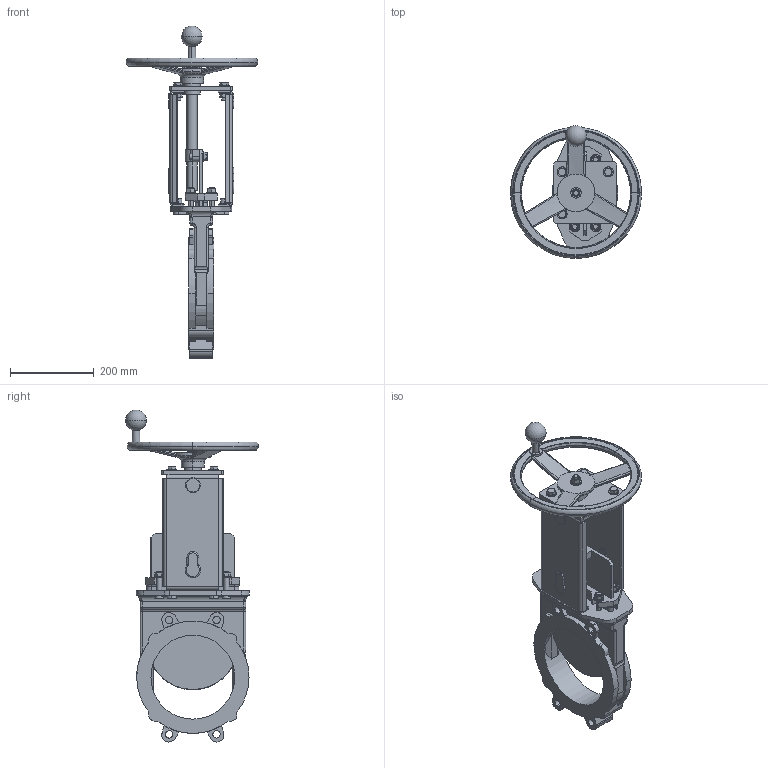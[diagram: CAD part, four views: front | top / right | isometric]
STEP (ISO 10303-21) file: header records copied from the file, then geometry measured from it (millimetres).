
FILE_DESCRIPTION(('STEP AP203'),'1');
FILE_NAME('G:/KONSTRUK/3-d block för CD/WB VALVE/HAND WHEEL/200/WB11 DN200 HW.stp','2012-11-30T13:05:14',(' '),(' '),'Spatial InterOp 3D',' ',' ');
FILE_SCHEMA(('CONFIG_CONTROL_DESIGN'));
Length unit declared in the file: millimetre
Products named in the file (15): 1; 2; 3; 4; 5; 6; 7; 8; 9; 10; 11; 12; 13; 14; 15
Bounding box: 313 x 317.11 x 791.64 mm (x, y, z)
Volume: 4965457.8 mm3; surface area: 848478 mm2
Topology: 15 solids, 15 shells, 1192 faces, 2928 edges, 1842 vertices
Faces by surface type: plane 498, cylinder 351, cone 250, torus 63, bspline 24, sphere 6
Entity records: 45714 total; most frequent: CARTESIAN_POINT 16969, DIRECTION 5937, ORIENTED_EDGE 5840, EDGE_CURVE 2920, AXIS2_PLACEMENT_3D 2327, VERTEX_POINT 1842, EDGE_LOOP 1314, LINE 1283
